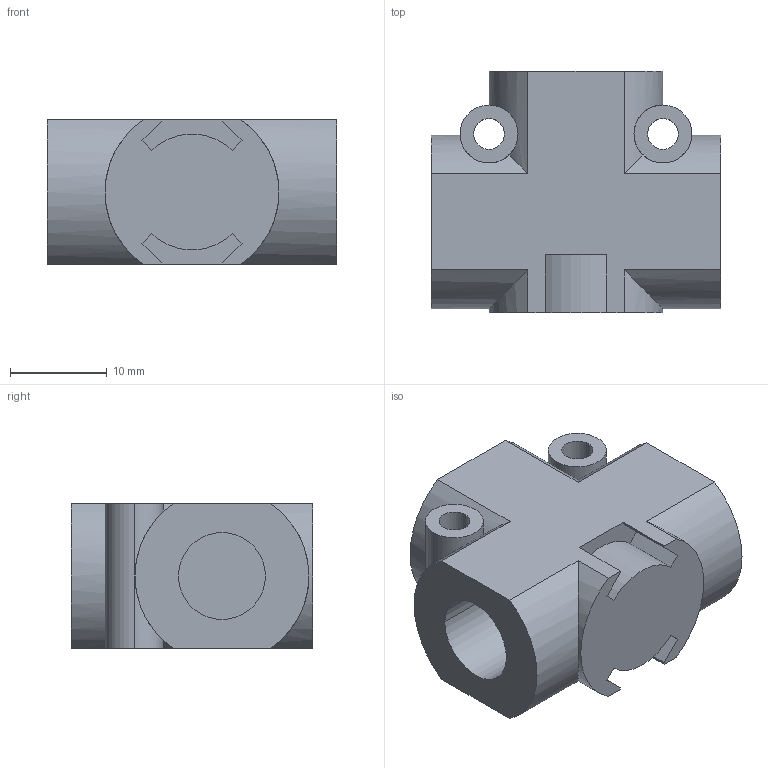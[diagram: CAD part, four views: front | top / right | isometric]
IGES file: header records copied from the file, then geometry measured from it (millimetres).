
Global section: file name: No Iges File Name specified; native system: Autodesk Inventor 2009; preprocessor: AutoDesk Inventor Iges Exporter R2009; author: rivolro1; date: 20090430.143913; units: millimetre
Bounding box: 30 x 25 x 15 mm (x, y, z)
Volume: 7729.3 mm3; surface area: 3904.7 mm2
Topology: 1 solids, 1 shells, 51 faces, 138 edges, 92 vertices
Faces by surface type: plane 18, bspline 14, cylinder 13, revolution 6
